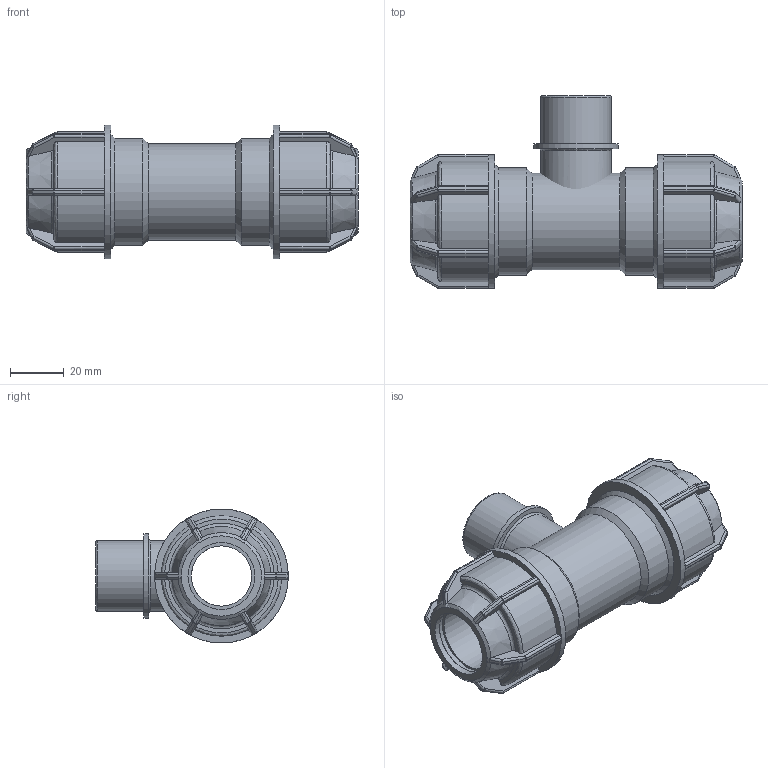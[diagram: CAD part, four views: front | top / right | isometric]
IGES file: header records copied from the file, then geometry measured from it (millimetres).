
Global section: file name: 148400025007.ipt; native system: Autodesk Inventor 2015; preprocessor: unknown; author: KIM; date: 20180409.131230; units: millimetre
Bounding box: 124 x 72 x 50 mm (x, y, z)
Volume: 108484.5 mm3; surface area: 37449.3 mm2
Topology: 2 solids, 2 shells, 417 faces, 1007 edges, 589 vertices
Faces by surface type: plane 199, cylinder 116, sphere 48, revolution 38, cone 16
Full cylindrical faces by diameter (mm): 26.441 x2, 31.729 x1, 36 x1, 40 x2, 50 x2
